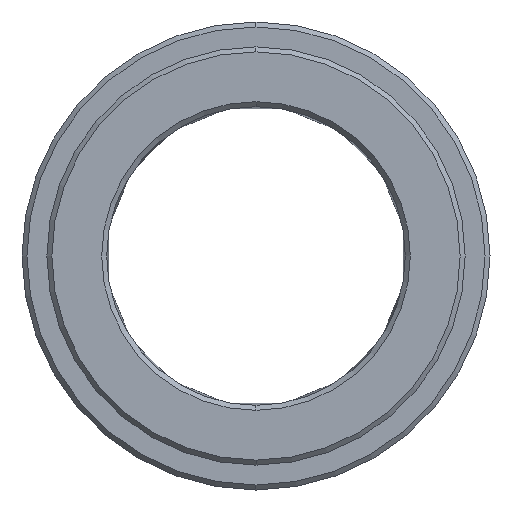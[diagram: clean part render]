
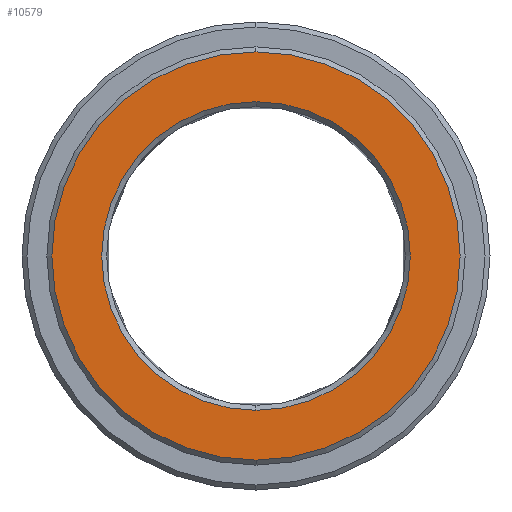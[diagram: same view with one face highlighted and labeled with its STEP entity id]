
A CAD part, left-side view. The second image highlights one B-rep face of the part: STEP entity #10579.
In plain terms, the highlighted planar face has unit normal (-1, 0, 0).
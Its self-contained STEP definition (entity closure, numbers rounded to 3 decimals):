
#7058=CARTESIAN_POINT('',(-8.,0.,
0.));
#7059=DIRECTION('',(1.,0.,0.));
#7060=DIRECTION('',(0.,0.,1.));
#7061=AXIS2_PLACEMENT_3D('',#7058,#7059,#7060);
#7063=CARTESIAN_POINT('',(-8.,0.,
0.));
#7064=DIRECTION('',(1.,0.,0.));
#7065=DIRECTION('',(0.,0.,-1.));
#7066=AXIS2_PLACEMENT_3D('',#7063,#7064,#7065);
#7068=CARTESIAN_POINT('',(-8.,0.,
0.));
#7069=DIRECTION('',(1.,0.,0.));
#7070=DIRECTION('',(0.,0.,-1.));
#7071=AXIS2_PLACEMENT_3D('',#7068,#7069,#7070);
#7073=CARTESIAN_POINT('',(-8.,0.,
0.));
#7074=DIRECTION('',(1.,0.,0.));
#7075=DIRECTION('',(0.,0.,1.));
#7076=AXIS2_PLACEMENT_3D('',#7073,#7074,#7075);
#7524=CARTESIAN_POINT('',(-8.,0.,-15.5));
#7525=CARTESIAN_POINT('',(-8.,0.,15.5));
#7526=VERTEX_POINT('',#7524);
#7527=VERTEX_POINT('',#7525);
#7532=CARTESIAN_POINT('',(-8.,0.,20.5));
#7533=CARTESIAN_POINT('',(-8.,0.,
-20.5));
#7534=VERTEX_POINT('',#7532);
#7535=VERTEX_POINT('',#7533);
#10564=CARTESIAN_POINT('',(-8.,0.,0.));
#10565=DIRECTION('',(1.,0.,0.));
#10566=DIRECTION('',(0.,0.,1.));
#10567=AXIS2_PLACEMENT_3D('',#10564,#10565,#10566);
#10568=PLANE('',#10567);
#10569=ORIENTED_EDGE('',*,*,#10531,.T.);
#10570=ORIENTED_EDGE('',*,*,#10546,.T.);
#10571=EDGE_LOOP('',(#10569,#10570));
#10572=FACE_OUTER_BOUND('',#10571,.F.);
#10574=ORIENTED_EDGE('',*,*,#10573,.F.);
#10576=ORIENTED_EDGE('',*,*,#10575,.F.);
#10577=EDGE_LOOP('',(#10574,#10576));
#10578=FACE_BOUND('',#10577,.F.);
#10579=ADVANCED_FACE('',(#10572,#10578),#10568,.F.);
#7062=CIRCLE('',#7061,20.5);
#7067=CIRCLE('',#7066,20.5);
#7072=CIRCLE('',#7071,15.5);
#7077=CIRCLE('',#7076,15.5);
#10531=EDGE_CURVE('',#7534,#7535,#7062,.T.);
#10546=EDGE_CURVE('',#7535,#7534,#7067,.T.);
#10573=EDGE_CURVE('',#7526,#7527,#7072,.T.);
#10575=EDGE_CURVE('',#7527,#7526,#7077,.T.);
